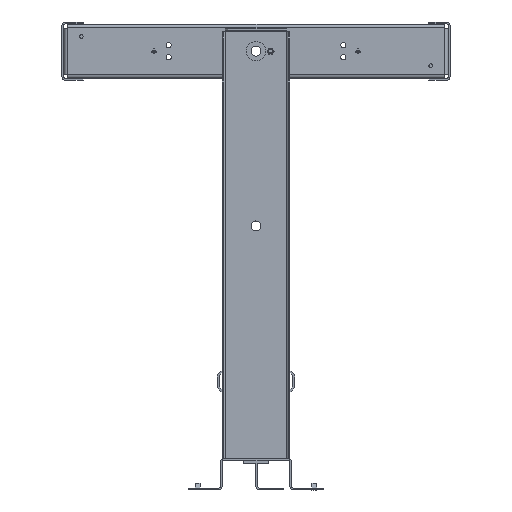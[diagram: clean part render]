
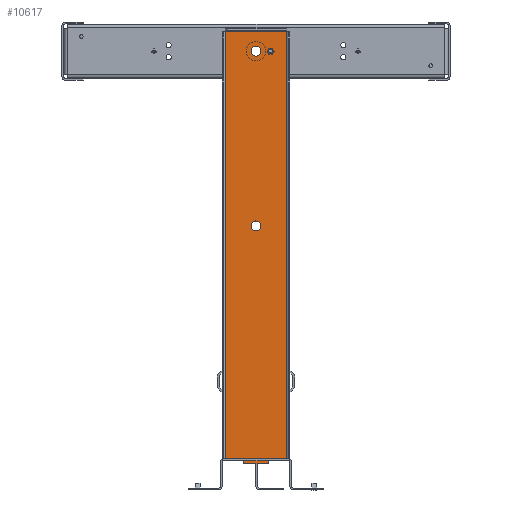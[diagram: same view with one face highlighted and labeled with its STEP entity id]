
A CAD part, front view. The second image highlights one B-rep face of the part: STEP entity #10617.
In plain terms, the highlighted planar face has unit normal (0, -1, 0) as drawn and (0, 1, 0) by its records, which use the part's own axes.
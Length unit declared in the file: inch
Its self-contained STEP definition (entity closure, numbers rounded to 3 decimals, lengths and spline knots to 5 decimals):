
#176 = AXIS2_PLACEMENT_3D ( 'NONE', #11928, #12013, #12018 ) ;
#181 = AXIS2_PLACEMENT_3D ( 'NONE', #11916, #11918, #11922 ) ;
#182 = AXIS2_PLACEMENT_3D ( 'NONE', #11954, #11942, #11890 ) ;
#442 = VECTOR ( 'NONE', #12297, 39.37008 ) ;
#443 = LINE ( 'NONE', #12258, #442 ) ;
#494 = CIRCLE ( 'NONE', #176, 0.255 ) ;
#506 = VECTOR ( 'NONE', #11632, 39.37008 ) ;
#510 = VECTOR ( 'NONE', #11901, 39.37008 ) ;
#511 = LINE ( 'NONE', #11902, #510 ) ;
#516 = LINE ( 'NONE', #12017, #506 ) ;
#518 = CIRCLE ( 'NONE', #181, 0.255 ) ;
#522 = VECTOR ( 'NONE', #11886, 39.37008 ) ;
#528 = LINE ( 'NONE', #11887, #522 ) ;
#549 = CIRCLE ( 'NONE', #182, 0.1405 ) ;
#655 = VECTOR ( 'NONE', #12277, 39.37008 ) ;
#679 = LINE ( 'NONE', #12287, #655 ) ;
#1761 = VECTOR ( 'NONE', #8996, 39.37008 ) ;
#1789 = LINE ( 'NONE', #8997, #1761 ) ;
#2807 = FACE_OUTER_BOUND ( 'NONE', #17337, .T. ) ;
#2809 = FACE_BOUND ( 'NONE', #17345, .T. ) ;
#2811 = FACE_BOUND ( 'NONE', #17346, .T. ) ;
#2816 = FACE_BOUND ( 'NONE', #4505, .T. ) ;
#4505 = EDGE_LOOP ( 'NONE', ( #16931, #16932 ) ) ;
#4943 = AXIS2_PLACEMENT_3D ( 'NONE', #18573, #18579, #18566 ) ;
#5265 = CIRCLE ( 'NONE', #8375, 0.1405 ) ;
#6654 = EDGE_CURVE ( 'NONE', #13439, #13466, #8022, .T. ) ;
#6718 = EDGE_CURVE ( 'NONE', #13536, #13584, #8232, .T. ) ;
#6720 = EDGE_CURVE ( 'NONE', #13563, #13522, #8230, .T. ) ;
#6733 = EDGE_CURVE ( 'NONE', #13457, #13606, #5265, .T. ) ;
#7779 = CARTESIAN_POINT ( 'NONE',  ( 0., 0.097, 21. ) ) ;
#7814 = DIRECTION ( 'NONE',  ( 0., 1., 0. ) ) ;
#7815 = DIRECTION ( 'NONE',  ( 0., 0., 1. ) ) ;
#7817 = CARTESIAN_POINT ( 'NONE',  ( 0., 0.097, 12. ) ) ;
#7819 = DIRECTION ( 'NONE',  ( 0., 0., 1. ) ) ;
#7820 = DIRECTION ( 'NONE',  ( 0., 1., 0. ) ) ;
#7833 = CARTESIAN_POINT ( 'NONE',  ( -0.75, 0.097, 21. ) ) ;
#7846 = DIRECTION ( 'NONE',  ( 0., 1., 0. ) ) ;
#7847 = DIRECTION ( 'NONE',  ( 0., 0., 1. ) ) ;
#8003 = VECTOR ( 'NONE', #9814, 39.37008 ) ;
#8022 = LINE ( 'NONE', #14407, #8025 ) ;
#8025 = VECTOR ( 'NONE', #14408, 39.37008 ) ;
#8230 = CIRCLE ( 'NONE', #8370, 0.255 ) ;
#8232 = CIRCLE ( 'NONE', #8371, 0.255 ) ;
#8370 = AXIS2_PLACEMENT_3D ( 'NONE', #7817, #7820, #7819 ) ;
#8371 = AXIS2_PLACEMENT_3D ( 'NONE', #7779, #7814, #7815 ) ;
#8375 = AXIS2_PLACEMENT_3D ( 'NONE', #7833, #7846, #7847 ) ;
#8536 = EDGE_CURVE ( 'NONE', #13511, #13509, #10432, .T. ) ;
#8996 = DIRECTION ( 'NONE',  ( 1., 0., 0. ) ) ;
#8997 = CARTESIAN_POINT ( 'NONE',  ( -0.625, 0.097, -0.25 ) ) ;
#9814 = DIRECTION ( 'NONE',  ( -1., 0., 0. ) ) ;
#9850 = CARTESIAN_POINT ( 'NONE',  ( 1.75, 0.097, 0. ) ) ;
#10432 = LINE ( 'NONE', #9850, #8003 ) ;
#10617 = ADVANCED_FACE ( 'NONE', ( #2816, #2811, #2809, #2807 ), #12625, .F. ) ;
#11632 = DIRECTION ( 'NONE',  ( 0., 0., 1. ) ) ;
#11886 = DIRECTION ( 'NONE',  ( -1., 0., 0. ) ) ;
#11887 = CARTESIAN_POINT ( 'NONE',  ( 1.75, 0.097, 22. ) ) ;
#11890 = DIRECTION ( 'NONE',  ( 0., 0., 1. ) ) ;
#11901 = DIRECTION ( 'NONE',  ( 0., 0., -1. ) ) ;
#11902 = CARTESIAN_POINT ( 'NONE',  ( 1.573, 0.097, 22. ) ) ;
#11916 = CARTESIAN_POINT ( 'NONE',  ( 0., 0.097, 12. ) ) ;
#11918 = DIRECTION ( 'NONE',  ( 0., 1., 0. ) ) ;
#11922 = DIRECTION ( 'NONE',  ( 0., 0., 1. ) ) ;
#11928 = CARTESIAN_POINT ( 'NONE',  ( 0., 0.097, 21. ) ) ;
#11942 = DIRECTION ( 'NONE',  ( 0., 1., 0. ) ) ;
#11954 = CARTESIAN_POINT ( 'NONE',  ( -0.75, 0.097, 21. ) ) ;
#12013 = DIRECTION ( 'NONE',  ( 0., 1., 0. ) ) ;
#12017 = CARTESIAN_POINT ( 'NONE',  ( 0.625, 0.097, 0. ) ) ;
#12018 = DIRECTION ( 'NONE',  ( 0., 0., 1. ) ) ;
#12258 = CARTESIAN_POINT ( 'NONE',  ( -1.573, 0.097, 22. ) ) ;
#12277 = DIRECTION ( 'NONE',  ( 0., 0., -1. ) ) ;
#12287 = CARTESIAN_POINT ( 'NONE',  ( -0.625, 0.097, 0. ) ) ;
#12297 = DIRECTION ( 'NONE',  ( 0., 0., -1. ) ) ;
#12625 = PLANE ( 'NONE',  #4943 ) ;
#13439 = VERTEX_POINT ( 'NONE', #17622 ) ;
#13447 = VERTEX_POINT ( 'NONE', #17633 ) ;
#13457 = VERTEX_POINT ( 'NONE', #17643 ) ;
#13466 = VERTEX_POINT ( 'NONE', #17927 ) ;
#13490 = VERTEX_POINT ( 'NONE', #17937 ) ;
#13509 = VERTEX_POINT ( 'NONE', #17960 ) ;
#13511 = VERTEX_POINT ( 'NONE', #17962 ) ;
#13522 = VERTEX_POINT ( 'NONE', #17524 ) ;
#13536 = VERTEX_POINT ( 'NONE', #17496 ) ;
#13563 = VERTEX_POINT ( 'NONE', #17535 ) ;
#13574 = VERTEX_POINT ( 'NONE', #17550 ) ;
#13584 = VERTEX_POINT ( 'NONE', #17559 ) ;
#13602 = VERTEX_POINT ( 'NONE', #18228 ) ;
#13606 = VERTEX_POINT ( 'NONE', #18263 ) ;
#14407 = CARTESIAN_POINT ( 'NONE',  ( 1.75, 0.097, 0. ) ) ;
#14408 = DIRECTION ( 'NONE',  ( -1., 0., 0. ) ) ;
#15135 = EDGE_CURVE ( 'NONE', #13439, #13447, #679, .T. ) ;
#15168 = EDGE_CURVE ( 'NONE', #13606, #13457, #549, .T. ) ;
#15185 = EDGE_CURVE ( 'NONE', #13522, #13563, #518, .T. ) ;
#15190 = EDGE_CURVE ( 'NONE', #13574, #13511, #511, .T. ) ;
#15193 = EDGE_CURVE ( 'NONE', #13574, #13490, #528, .T. ) ;
#15198 = EDGE_CURVE ( 'NONE', #13584, #13536, #494, .T. ) ;
#15199 = EDGE_CURVE ( 'NONE', #13602, #13509, #516, .T. ) ;
#15232 = EDGE_CURVE ( 'NONE', #13490, #13466, #443, .T. ) ;
#15520 = EDGE_CURVE ( 'NONE', #13447, #13602, #1789, .T. ) ;
#16931 = ORIENTED_EDGE ( 'NONE', *, *, #15185, .F. ) ;
#16932 = ORIENTED_EDGE ( 'NONE', *, *, #6720, .F. ) ;
#16934 = ORIENTED_EDGE ( 'NONE', *, *, #15168, .F. ) ;
#16935 = ORIENTED_EDGE ( 'NONE', *, *, #6733, .F. ) ;
#16937 = ORIENTED_EDGE ( 'NONE', *, *, #15198, .F. ) ;
#16939 = ORIENTED_EDGE ( 'NONE', *, *, #6718, .F. ) ;
#16940 = ORIENTED_EDGE ( 'NONE', *, *, #15135, .F. ) ;
#16941 = ORIENTED_EDGE ( 'NONE', *, *, #15193, .F. ) ;
#16944 = ORIENTED_EDGE ( 'NONE', *, *, #15199, .F. ) ;
#16945 = ORIENTED_EDGE ( 'NONE', *, *, #6654, .T. ) ;
#16947 = ORIENTED_EDGE ( 'NONE', *, *, #8536, .T. ) ;
#16949 = ORIENTED_EDGE ( 'NONE', *, *, #15190, .T. ) ;
#16951 = ORIENTED_EDGE ( 'NONE', *, *, #15232, .F. ) ;
#16952 = ORIENTED_EDGE ( 'NONE', *, *, #15520, .F. ) ;
#17337 = EDGE_LOOP ( 'NONE', ( #16947, #16944, #16952, #16940, #16945, #16951, #16941, #16949 ) ) ;
#17345 = EDGE_LOOP ( 'NONE', ( #16937, #16939 ) ) ;
#17346 = EDGE_LOOP ( 'NONE', ( #16934, #16935 ) ) ;
#17496 = CARTESIAN_POINT ( 'NONE',  ( 0., 0.097, 20.745 ) ) ;
#17524 = CARTESIAN_POINT ( 'NONE',  ( 0., 0.097, 12.255 ) ) ;
#17535 = CARTESIAN_POINT ( 'NONE',  ( 0., 0.097, 11.745 ) ) ;
#17550 = CARTESIAN_POINT ( 'NONE',  ( 1.573, 0.097, 22. ) ) ;
#17559 = CARTESIAN_POINT ( 'NONE',  ( 0., 0.097, 21.255 ) ) ;
#17622 = CARTESIAN_POINT ( 'NONE',  ( -0.625, 0.097, 0. ) ) ;
#17633 = CARTESIAN_POINT ( 'NONE',  ( -0.625, 0.097, -0.25 ) ) ;
#17643 = CARTESIAN_POINT ( 'NONE',  ( -0.75, 0.097, 20.8595 ) ) ;
#17927 = CARTESIAN_POINT ( 'NONE',  ( -1.573, 0.097, 0. ) ) ;
#17937 = CARTESIAN_POINT ( 'NONE',  ( -1.573, 0.097, 22. ) ) ;
#17960 = CARTESIAN_POINT ( 'NONE',  ( 0.625, 0.097, 0. ) ) ;
#17962 = CARTESIAN_POINT ( 'NONE',  ( 1.573, 0.097, 0. ) ) ;
#18228 = CARTESIAN_POINT ( 'NONE',  ( 0.625, 0.097, -0.25 ) ) ;
#18263 = CARTESIAN_POINT ( 'NONE',  ( -0.75, 0.097, 21.1405 ) ) ;
#18566 = DIRECTION ( 'NONE',  ( 0., 0., -1. ) ) ;
#18573 = CARTESIAN_POINT ( 'NONE',  ( 1.75, 0.097, 22. ) ) ;
#18579 = DIRECTION ( 'NONE',  ( 0., -1., 0. ) ) ;
